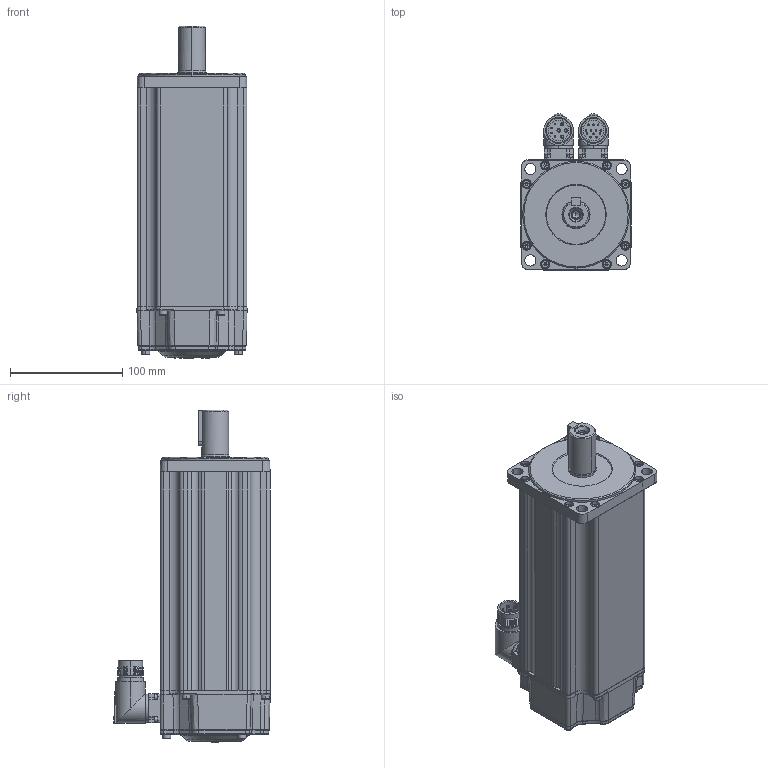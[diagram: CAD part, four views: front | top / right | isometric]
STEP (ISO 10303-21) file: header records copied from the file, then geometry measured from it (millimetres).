
FILE_DESCRIPTION (( 'STEP AP203' ), '1' );
FILE_NAME ('MC20-100-3L30-N252-1¡õPK-NNNN.STEP', '2025-05-04T13:26:32', ( '' ), ( '' ), 'SwSTEP 2.0', 'SolidWorks 2014', '' );
FILE_SCHEMA (( 'CONFIG_CONTROL_DESIGN' ));
Products named in the file (1): MC20-100-3L30-N252-1¡õPK-NNNN
Bounding box: 98.04 x 139.27 x 295.49 mm (x, y, z)
Volume: 2259435.7 mm3; surface area: 228098.8 mm2
Topology: 32 solids, 32 shells, 2072 faces, 4810 edges, 2855 vertices
Faces by surface type: plane 768, cylinder 544, cone 362, bspline 211, torus 182, sphere 5
Entity records: 64693 total; most frequent: CARTESIAN_POINT 18778, DIRECTION 9678, ORIENTED_EDGE 9432, EDGE_CURVE 4716, AXIS2_PLACEMENT_3D 3775, VERTEX_POINT 2855, EDGE_LOOP 2291, VECTOR 2128
